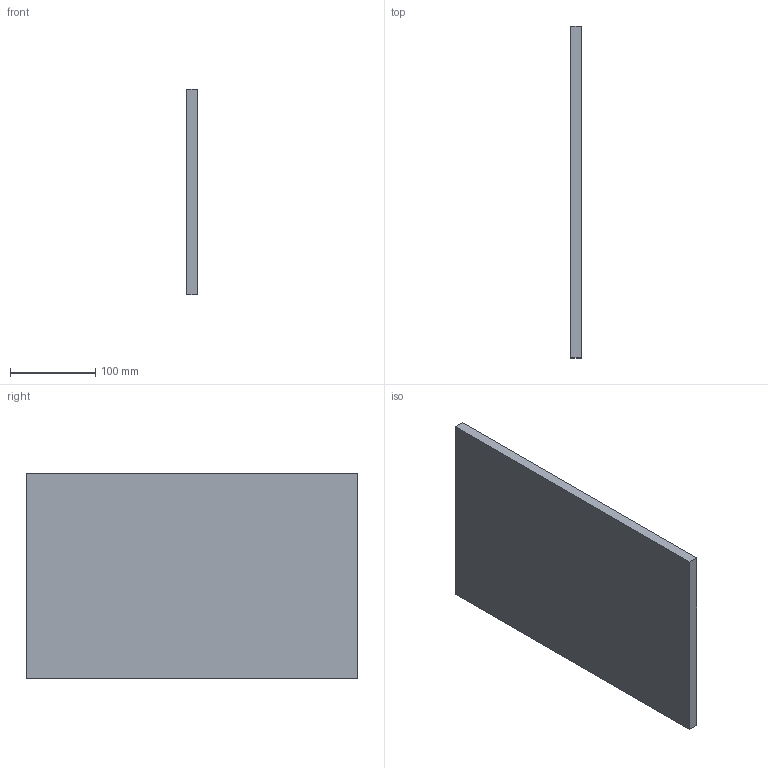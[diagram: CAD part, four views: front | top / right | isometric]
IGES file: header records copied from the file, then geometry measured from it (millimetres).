
Start section: Data from Parasolid IGES Translator 19.0.9, Copyright(c) 2006 Siemens PL M Software. All Rights Reserved.
Global section: file name: noorth-SI-H 24 D 38,8 W 1,2_8981.igs; native system: By Siemens PLM Incorporated; preprocessor: XPlus GENERIC/IGES 19.0.9; author: Noname; organization: Noname; date: 20200710.084136; units: metre
Bounding box: 12 x 388 x 240 mm (x, y, z)
Volume: 1117440 mm3; surface area: 201312 mm2
Topology: 1 solids, 1 shells, 6 faces, 12 edges, 8 vertices
Faces by surface type: plane 6
